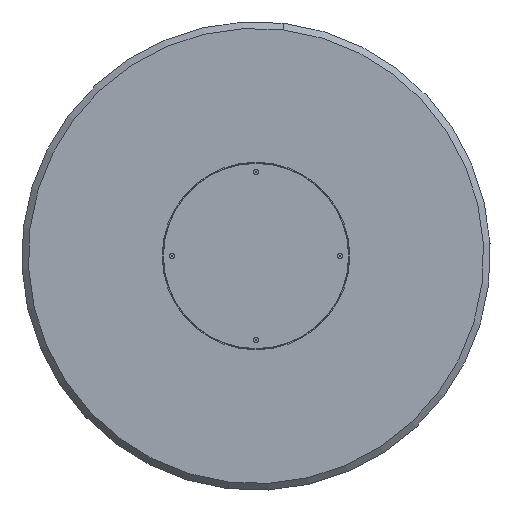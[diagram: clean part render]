
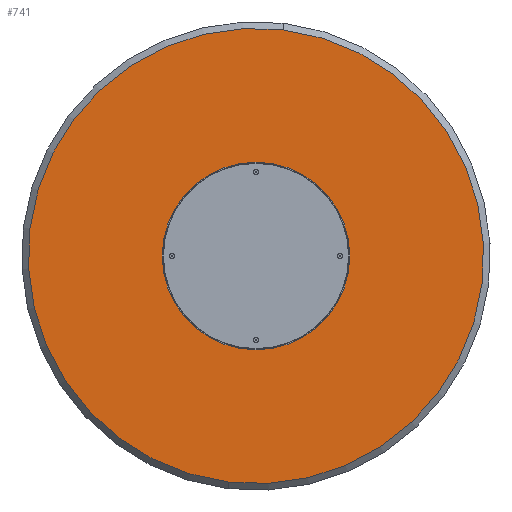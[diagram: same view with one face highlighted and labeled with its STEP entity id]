
A CAD part, front view. The second image highlights one B-rep face of the part: STEP entity #741.
In plain terms, the highlighted planar face has unit normal (0, -1, 0).
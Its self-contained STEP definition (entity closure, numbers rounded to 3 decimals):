
#6 = ORIENTED_EDGE ( 'NONE', *, *, #5012, .F. ) ;
#47 = AXIS2_PLACEMENT_3D ( 'NONE', #1471, #231, #3409 ) ;
#78 = CIRCLE ( 'NONE', #1558, 3.4 ) ;
#104 = FACE_BOUND ( 'NONE', #1815, .T. ) ;
#109 = CIRCLE ( 'NONE', #4868, 3.4 ) ;
#122 = CIRCLE ( 'NONE', #2841, 3.4 ) ;
#182 = ORIENTED_EDGE ( 'NONE', *, *, #2391, .F. ) ;
#231 = DIRECTION ( 'NONE',  ( 0., -1., 0. ) ) ;
#263 = DIRECTION ( 'NONE',  ( 0., 0., -1. ) ) ;
#286 = CARTESIAN_POINT ( 'NONE',  ( 0., 0., 0. ) ) ;
#543 = FACE_BOUND ( 'NONE', #1363, .T. ) ;
#617 = DIRECTION ( 'NONE',  ( 0., -1., 0. ) ) ;
#621 = AXIS2_PLACEMENT_3D ( 'NONE', #1864, #2661, #3388 ) ;
#659 = ORIENTED_EDGE ( 'NONE', *, *, #2384, .T. ) ;
#706 = AXIS2_PLACEMENT_3D ( 'NONE', #1418, #3019, #3479 ) ;
#738 = EDGE_LOOP ( 'NONE', ( #659, #2414 ) ) ;
#741 = ADVANCED_FACE ( 'NONE', ( #104, #2094, #3660, #4071, #543 ), #4101, .T. ) ;
#744 = DIRECTION ( 'NONE',  ( 0., 0., -1. ) ) ;
#754 = DIRECTION ( 'NONE',  ( 0., -1., 0. ) ) ;
#794 = VERTEX_POINT ( 'NONE', #2747 ) ;
#809 = CARTESIAN_POINT ( 'NONE',  ( 0., 0., 0. ) ) ;
#862 = EDGE_CURVE ( 'NONE', #3141, #3494, #109, .T. ) ;
#865 = CIRCLE ( 'NONE', #2190, 583. ) ;
#1076 = VERTEX_POINT ( 'NONE', #4786 ) ;
#1115 = CARTESIAN_POINT ( 'NONE',  ( 0., 0., 583. ) ) ;
#1192 = ORIENTED_EDGE ( 'NONE', *, *, #862, .F. ) ;
#1216 = ORIENTED_EDGE ( 'NONE', *, *, #4888, .F. ) ;
#1344 = CARTESIAN_POINT ( 'NONE',  ( 0., 0., 113.097 ) ) ;
#1363 = EDGE_LOOP ( 'NONE', ( #2853, #1216 ) ) ;
#1418 = CARTESIAN_POINT ( 'NONE',  ( -95., 0., -54.848 ) ) ;
#1471 = CARTESIAN_POINT ( 'NONE',  ( 0., 0., 0. ) ) ;
#1472 = AXIS2_PLACEMENT_3D ( 'NONE', #286, #754, #1900 ) ;
#1553 = EDGE_CURVE ( 'NONE', #4954, #2722, #78, .T. ) ;
#1558 = AXIS2_PLACEMENT_3D ( 'NONE', #3531, #4270, #744 ) ;
#1579 = VERTEX_POINT ( 'NONE', #3832 ) ;
#1815 = EDGE_LOOP ( 'NONE', ( #1192, #6 ) ) ;
#1864 = CARTESIAN_POINT ( 'NONE',  ( 0., 0., 0. ) ) ;
#1900 = DIRECTION ( 'NONE',  ( 0., 0., -1. ) ) ;
#2094 = FACE_BOUND ( 'NONE', #3867, .T. ) ;
#2137 = DIRECTION ( 'NONE',  ( 0., 0., -1. ) ) ;
#2190 = AXIS2_PLACEMENT_3D ( 'NONE', #809, #4382, #2441 ) ;
#2200 = DIRECTION ( 'NONE',  ( 0., 0., -1. ) ) ;
#2226 = CARTESIAN_POINT ( 'NONE',  ( 0., 0., 109.697 ) ) ;
#2278 = CIRCLE ( 'NONE', #3263, 3.4 ) ;
#2306 = DIRECTION ( 'NONE',  ( 0., 0., -1. ) ) ;
#2384 = EDGE_CURVE ( 'NONE', #2513, #1076, #4914, .T. ) ;
#2391 = EDGE_CURVE ( 'NONE', #4558, #794, #3116, .T. ) ;
#2414 = ORIENTED_EDGE ( 'NONE', *, *, #4216, .T. ) ;
#2441 = DIRECTION ( 'NONE',  ( 0., 0., -1. ) ) ;
#2513 = VERTEX_POINT ( 'NONE', #1115 ) ;
#2612 = DIRECTION ( 'NONE',  ( 0., -1., 0. ) ) ;
#2661 = DIRECTION ( 'NONE',  ( 0., -1., 0. ) ) ;
#2677 = VERTEX_POINT ( 'NONE', #4357 ) ;
#2722 = VERTEX_POINT ( 'NONE', #1344 ) ;
#2723 = DIRECTION ( 'NONE',  ( 0., 0., -1. ) ) ;
#2731 = ORIENTED_EDGE ( 'NONE', *, *, #3607, .F. ) ;
#2747 = CARTESIAN_POINT ( 'NONE',  ( 95., 0., -58.248 ) ) ;
#2841 = AXIS2_PLACEMENT_3D ( 'NONE', #2970, #617, #2200 ) ;
#2848 = CIRCLE ( 'NONE', #621, 3.4 ) ;
#2853 = ORIENTED_EDGE ( 'NONE', *, *, #4985, .F. ) ;
#2933 = CIRCLE ( 'NONE', #706, 3.4 ) ;
#2970 = CARTESIAN_POINT ( 'NONE',  ( 95., 0., -54.848 ) ) ;
#3017 = CARTESIAN_POINT ( 'NONE',  ( -95., 0., -51.448 ) ) ;
#3019 = DIRECTION ( 'NONE',  ( 0., -1., 0. ) ) ;
#3116 = CIRCLE ( 'NONE', #4343, 3.4 ) ;
#3141 = VERTEX_POINT ( 'NONE', #4709 ) ;
#3175 = CIRCLE ( 'NONE', #47, 3.4 ) ;
#3263 = AXIS2_PLACEMENT_3D ( 'NONE', #2226, #2612, #2306 ) ;
#3388 = DIRECTION ( 'NONE',  ( 0., 0., -1. ) ) ;
#3409 = DIRECTION ( 'NONE',  ( 0., 0., -1. ) ) ;
#3467 = CARTESIAN_POINT ( 'NONE',  ( 95., 0., -54.848 ) ) ;
#3471 = ORIENTED_EDGE ( 'NONE', *, *, #4921, .F. ) ;
#3479 = DIRECTION ( 'NONE',  ( 0., 0., -1. ) ) ;
#3494 = VERTEX_POINT ( 'NONE', #3017 ) ;
#3531 = CARTESIAN_POINT ( 'NONE',  ( 0., 0., 109.697 ) ) ;
#3572 = CARTESIAN_POINT ( 'NONE',  ( 0., 0., 0. ) ) ;
#3607 = EDGE_CURVE ( 'NONE', #794, #4558, #122, .T. ) ;
#3660 = FACE_BOUND ( 'NONE', #3670, .T. ) ;
#3670 = EDGE_LOOP ( 'NONE', ( #2731, #182 ) ) ;
#3832 = CARTESIAN_POINT ( 'NONE',  ( 0., 0., 3.4 ) ) ;
#3848 = ORIENTED_EDGE ( 'NONE', *, *, #1553, .F. ) ;
#3867 = EDGE_LOOP ( 'NONE', ( #3848, #3471 ) ) ;
#3890 = CARTESIAN_POINT ( 'NONE',  ( 95., 0., -51.448 ) ) ;
#4071 = FACE_OUTER_BOUND ( 'NONE', #738, .T. ) ;
#4101 = PLANE ( 'NONE',  #4706 ) ;
#4176 = CARTESIAN_POINT ( 'NONE',  ( 0., 0., 106.297 ) ) ;
#4216 = EDGE_CURVE ( 'NONE', #1076, #2513, #865, .T. ) ;
#4270 = DIRECTION ( 'NONE',  ( 0., -1., 0. ) ) ;
#4282 = DIRECTION ( 'NONE',  ( 0., -1., 0. ) ) ;
#4343 = AXIS2_PLACEMENT_3D ( 'NONE', #3467, #5019, #263 ) ;
#4357 = CARTESIAN_POINT ( 'NONE',  ( 0., 0., -3.4 ) ) ;
#4382 = DIRECTION ( 'NONE',  ( 0., -1., 0. ) ) ;
#4385 = DIRECTION ( 'NONE',  ( 0., -1., 0. ) ) ;
#4558 = VERTEX_POINT ( 'NONE', #3890 ) ;
#4706 = AXIS2_PLACEMENT_3D ( 'NONE', #3572, #4282, #2723 ) ;
#4709 = CARTESIAN_POINT ( 'NONE',  ( -95., 0., -58.248 ) ) ;
#4786 = CARTESIAN_POINT ( 'NONE',  ( 0., 0., -583. ) ) ;
#4824 = CARTESIAN_POINT ( 'NONE',  ( -95., 0., -54.848 ) ) ;
#4868 = AXIS2_PLACEMENT_3D ( 'NONE', #4824, #4385, #2137 ) ;
#4888 = EDGE_CURVE ( 'NONE', #1579, #2677, #2848, .T. ) ;
#4914 = CIRCLE ( 'NONE', #1472, 583. ) ;
#4921 = EDGE_CURVE ( 'NONE', #2722, #4954, #2278, .T. ) ;
#4954 = VERTEX_POINT ( 'NONE', #4176 ) ;
#4985 = EDGE_CURVE ( 'NONE', #2677, #1579, #3175, .T. ) ;
#5012 = EDGE_CURVE ( 'NONE', #3494, #3141, #2933, .T. ) ;
#5019 = DIRECTION ( 'NONE',  ( 0., -1., 0. ) ) ;
